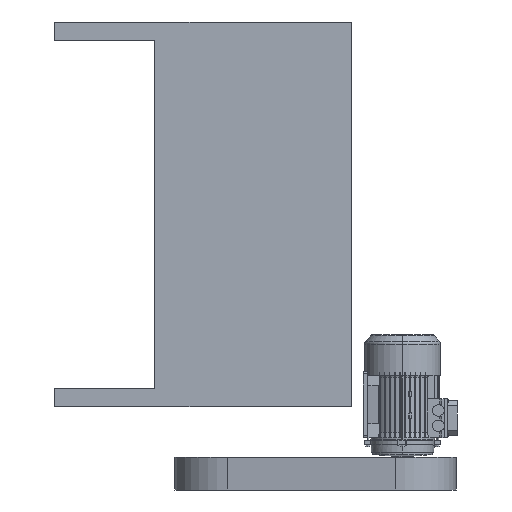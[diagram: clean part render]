
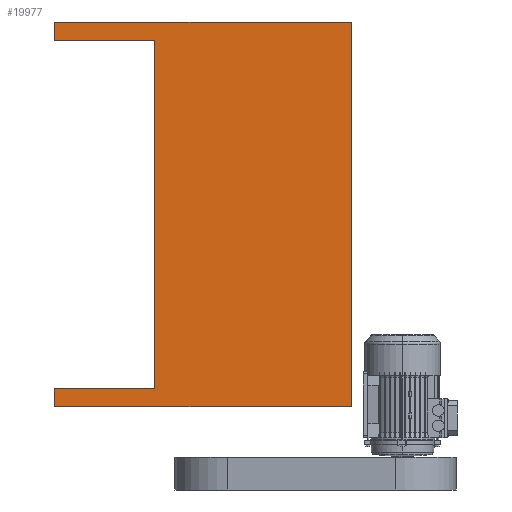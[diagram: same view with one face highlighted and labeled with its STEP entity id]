
A CAD part, front view. The second image highlights one B-rep face of the part: STEP entity #19977.
In plain terms, the highlighted planar face has unit normal (0, -1, 0).
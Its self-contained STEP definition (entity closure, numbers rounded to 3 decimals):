
#50 = CARTESIAN_POINT ( 'NONE',  ( -122.515, -176.895, -440. ) ) ;
#1065 = CARTESIAN_POINT ( 'NONE',  ( -122.515, -176.895, -440. ) ) ;
#1732 = VERTEX_POINT ( 'NONE', #32112 ) ;
#2094 = LINE ( 'NONE', #18671, #18985 ) ;
#3012 = DIRECTION ( 'NONE',  ( -1., 0., 0. ) ) ;
#3421 = LINE ( 'NONE', #50, #19323 ) ;
#3599 = CARTESIAN_POINT ( 'NONE',  ( -375.515, -176.895, 443. ) ) ;
#4519 = VERTEX_POINT ( 'NONE', #1065 ) ;
#4530 = EDGE_LOOP ( 'NONE', ( #10896, #38037, #8379, #33505, #24688, #35342, #24041, #18805 ) ) ;
#5906 = LINE ( 'NONE', #34067, #28943 ) ;
#7350 = EDGE_CURVE ( 'NONE', #38679, #24342, #35082, .T. ) ;
#8379 = ORIENTED_EDGE ( 'NONE', *, *, #15909, .T. ) ;
#8464 = EDGE_CURVE ( 'NONE', #35140, #4519, #3421, .T. ) ;
#9330 = VECTOR ( 'NONE', #34651, 1000. ) ;
#9418 = LINE ( 'NONE', #32329, #15939 ) ;
#10896 = ORIENTED_EDGE ( 'NONE', *, *, #13741, .T. ) ;
#11758 = LINE ( 'NONE', #27599, #21270 ) ;
#12007 = LINE ( 'NONE', #20608, #20506 ) ;
#12513 = AXIS2_PLACEMENT_3D ( 'NONE', #35414, #38380, #20258 ) ;
#13741 = EDGE_CURVE ( 'NONE', #17289, #35140, #9418, .T. ) ;
#14215 = DIRECTION ( 'NONE',  ( 0., 0., -1. ) ) ;
#15038 = DIRECTION ( 'NONE',  ( 0., 0., -1. ) ) ;
#15909 = EDGE_CURVE ( 'NONE', #4519, #38679, #2094, .T. ) ;
#15939 = VECTOR ( 'NONE', #19539, 1000. ) ;
#17289 = VERTEX_POINT ( 'NONE', #23844 ) ;
#17386 = CARTESIAN_POINT ( 'NONE',  ( -375.515, -176.895, -486. ) ) ;
#17963 = VERTEX_POINT ( 'NONE', #24844 ) ;
#18022 = EDGE_CURVE ( 'NONE', #36328, #24342, #5906, .T. ) ;
#18671 = CARTESIAN_POINT ( 'NONE',  ( -375.515, -176.895, -440. ) ) ;
#18805 = ORIENTED_EDGE ( 'NONE', *, *, #32291, .T. ) ;
#18985 = VECTOR ( 'NONE', #39847, 1000. ) ;
#19180 = DIRECTION ( 'NONE',  ( 0., 0., -1. ) ) ;
#19323 = VECTOR ( 'NONE', #19180, 1000. ) ;
#19539 = DIRECTION ( 'NONE',  ( 1., 0., 0. ) ) ;
#19977 = ADVANCED_FACE ( 'NONE', ( #24101 ), #32365, .F. ) ;
#20258 = DIRECTION ( 'NONE',  ( 0., 0., 1. ) ) ;
#20506 = VECTOR ( 'NONE', #14215, 1000. ) ;
#20565 = CARTESIAN_POINT ( 'NONE',  ( -375.515, -176.895, -440. ) ) ;
#20608 = CARTESIAN_POINT ( 'NONE',  ( -375.515, -176.895, 443. ) ) ;
#21270 = VECTOR ( 'NONE', #15038, 1000. ) ;
#23844 = CARTESIAN_POINT ( 'NONE',  ( -375.515, -176.895, 440. ) ) ;
#24041 = ORIENTED_EDGE ( 'NONE', *, *, #28395, .T. ) ;
#24101 = FACE_OUTER_BOUND ( 'NONE', #4530, .T. ) ;
#24342 = VERTEX_POINT ( 'NONE', #17386 ) ;
#24688 = ORIENTED_EDGE ( 'NONE', *, *, #18022, .F. ) ;
#24844 = CARTESIAN_POINT ( 'NONE',  ( 374.485, -176.895, 486. ) ) ;
#25600 = CARTESIAN_POINT ( 'NONE',  ( 374.485, -176.895, -486. ) ) ;
#26364 = EDGE_CURVE ( 'NONE', #17963, #36328, #11758, .T. ) ;
#27599 = CARTESIAN_POINT ( 'NONE',  ( 374.485, -176.895, 443. ) ) ;
#28395 = EDGE_CURVE ( 'NONE', #17963, #1732, #39548, .T. ) ;
#28943 = VECTOR ( 'NONE', #3012, 1000. ) ;
#32112 = CARTESIAN_POINT ( 'NONE',  ( -375.515, -176.895, 486. ) ) ;
#32291 = EDGE_CURVE ( 'NONE', #1732, #17289, #12007, .T. ) ;
#32329 = CARTESIAN_POINT ( 'NONE',  ( -375.515, -176.895, 440. ) ) ;
#32365 = PLANE ( 'NONE',  #12513 ) ;
#33065 = DIRECTION ( 'NONE',  ( -1., 0., 0. ) ) ;
#33505 = ORIENTED_EDGE ( 'NONE', *, *, #7350, .T. ) ;
#34067 = CARTESIAN_POINT ( 'NONE',  ( -375.515, -176.895, -486. ) ) ;
#34651 = DIRECTION ( 'NONE',  ( 0., 0., -1. ) ) ;
#35082 = LINE ( 'NONE', #3599, #9330 ) ;
#35140 = VERTEX_POINT ( 'NONE', #39846 ) ;
#35342 = ORIENTED_EDGE ( 'NONE', *, *, #26364, .F. ) ;
#35414 = CARTESIAN_POINT ( 'NONE',  ( 0., -176.895, 443. ) ) ;
#36093 = CARTESIAN_POINT ( 'NONE',  ( -375.515, -176.895, 486. ) ) ;
#36328 = VERTEX_POINT ( 'NONE', #25600 ) ;
#38037 = ORIENTED_EDGE ( 'NONE', *, *, #8464, .T. ) ;
#38380 = DIRECTION ( 'NONE',  ( 0., 1., 0. ) ) ;
#38642 = VECTOR ( 'NONE', #33065, 1000. ) ;
#38679 = VERTEX_POINT ( 'NONE', #20565 ) ;
#39548 = LINE ( 'NONE', #36093, #38642 ) ;
#39846 = CARTESIAN_POINT ( 'NONE',  ( -122.515, -176.895, 440. ) ) ;
#39847 = DIRECTION ( 'NONE',  ( -1., 0., 0. ) ) ;
